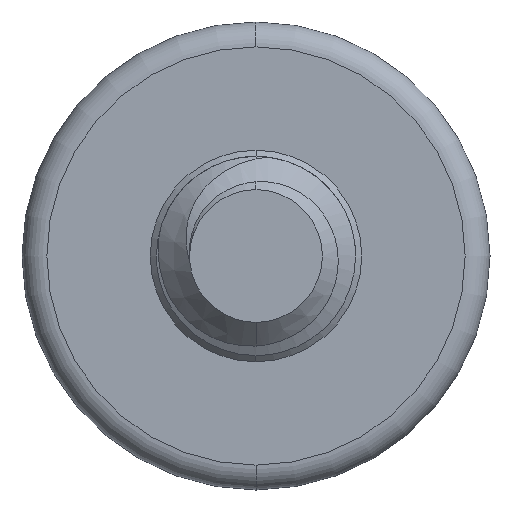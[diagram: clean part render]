
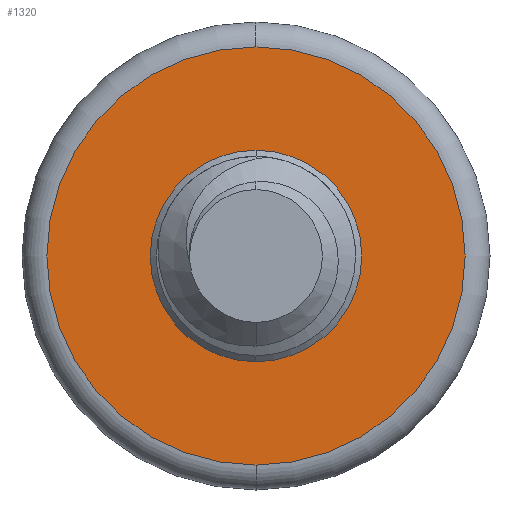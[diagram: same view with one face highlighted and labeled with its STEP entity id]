
A CAD part, left-side view. The second image highlights one B-rep face of the part: STEP entity #1320.
In plain terms, the highlighted planar face has unit normal (-1, 0, 0).
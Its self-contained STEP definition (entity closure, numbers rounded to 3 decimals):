
#36 = CIRCLE ( 'NONE', #3975, 0.425 ) ;
#51 = FACE_OUTER_BOUND ( 'NONE', #2639, .T. ) ;
#93 = FACE_BOUND ( 'NONE', #2988, .T. ) ;
#313 = AXIS2_PLACEMENT_3D ( 'NONE', #3587, #1517, #3950 ) ;
#644 = CARTESIAN_POINT ( 'NONE',  ( 2., 0., 0. ) ) ;
#674 = EDGE_CURVE ( 'NONE', #2684, #885, #2109, .T. ) ;
#726 = DIRECTION ( 'NONE',  ( -1., 0., 0. ) ) ;
#885 = VERTEX_POINT ( 'NONE', #1176 ) ;
#965 = ORIENTED_EDGE ( 'NONE', *, *, #4194, .F. ) ;
#980 = DIRECTION ( 'NONE',  ( 0., 0., -1. ) ) ;
#1000 = DIRECTION ( 'NONE',  ( -1., 0., 0. ) ) ;
#1017 = DIRECTION ( 'NONE',  ( 0., 0., -1. ) ) ;
#1176 = CARTESIAN_POINT ( 'NONE',  ( 2., 0., -0.84 ) ) ;
#1299 = CIRCLE ( 'NONE', #3282, 0.84 ) ;
#1320 = ADVANCED_FACE ( 'NONE', ( #51, #93 ), #1914, .F. ) ;
#1330 = VERTEX_POINT ( 'NONE', #3631 ) ;
#1336 = CARTESIAN_POINT ( 'NONE',  ( 2., 0., 0. ) ) ;
#1420 = AXIS2_PLACEMENT_3D ( 'NONE', #3992, #4351, #2255 ) ;
#1465 = ORIENTED_EDGE ( 'NONE', *, *, #3708, .F. ) ;
#1517 = DIRECTION ( 'NONE',  ( -1., 0., 0. ) ) ;
#1615 = EDGE_CURVE ( 'NONE', #885, #2684, #1299, .T. ) ;
#1713 = CARTESIAN_POINT ( 'NONE',  ( 2., 0., 0.425 ) ) ;
#1914 = PLANE ( 'NONE',  #1420 ) ;
#2109 = CIRCLE ( 'NONE', #3582, 0.84 ) ;
#2143 = CIRCLE ( 'NONE', #313, 0.425 ) ;
#2255 = DIRECTION ( 'NONE',  ( 0., 0., -1. ) ) ;
#2639 = EDGE_LOOP ( 'NONE', ( #2737, #3441 ) ) ;
#2684 = VERTEX_POINT ( 'NONE', #4541 ) ;
#2719 = VERTEX_POINT ( 'NONE', #1713 ) ;
#2737 = ORIENTED_EDGE ( 'NONE', *, *, #1615, .T. ) ;
#2840 = CARTESIAN_POINT ( 'NONE',  ( 2., 0., 0. ) ) ;
#2988 = EDGE_LOOP ( 'NONE', ( #1465, #965 ) ) ;
#3100 = DIRECTION ( 'NONE',  ( -1., 0., 0. ) ) ;
#3176 = DIRECTION ( 'NONE',  ( 0., 0., -1. ) ) ;
#3282 = AXIS2_PLACEMENT_3D ( 'NONE', #644, #3100, #1017 ) ;
#3441 = ORIENTED_EDGE ( 'NONE', *, *, #674, .T. ) ;
#3582 = AXIS2_PLACEMENT_3D ( 'NONE', #1336, #1000, #980 ) ;
#3587 = CARTESIAN_POINT ( 'NONE',  ( 2., 0., 0. ) ) ;
#3631 = CARTESIAN_POINT ( 'NONE',  ( 2., 0., -0.425 ) ) ;
#3708 = EDGE_CURVE ( 'NONE', #2719, #1330, #2143, .T. ) ;
#3950 = DIRECTION ( 'NONE',  ( 0., 0., -1. ) ) ;
#3975 = AXIS2_PLACEMENT_3D ( 'NONE', #2840, #726, #3176 ) ;
#3992 = CARTESIAN_POINT ( 'NONE',  ( 2., 0., 0. ) ) ;
#4194 = EDGE_CURVE ( 'NONE', #1330, #2719, #36, .T. ) ;
#4351 = DIRECTION ( 'NONE',  ( 1., 0., 0. ) ) ;
#4541 = CARTESIAN_POINT ( 'NONE',  ( 2., 0., 0.84 ) ) ;
